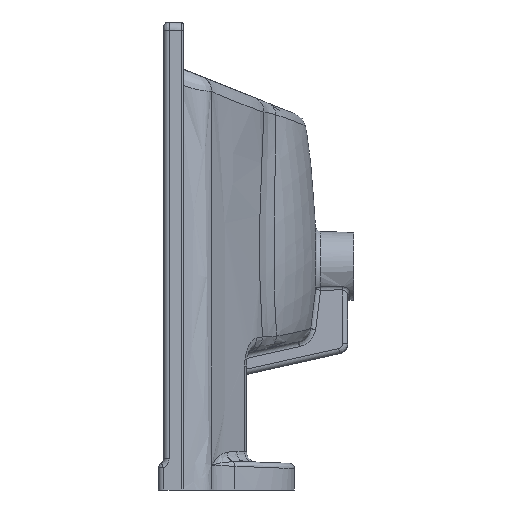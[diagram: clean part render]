
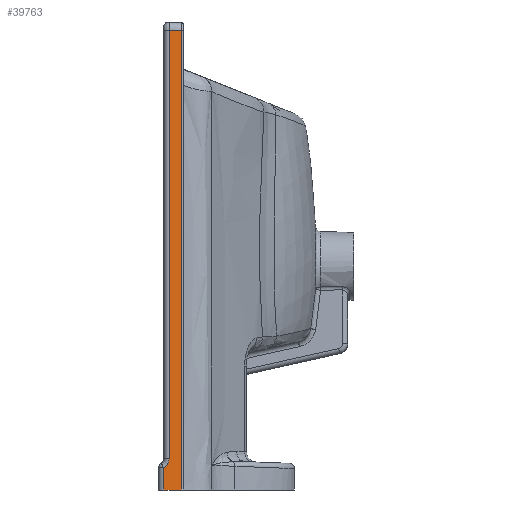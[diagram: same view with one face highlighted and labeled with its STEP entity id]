
A CAD part, left-side view. The second image highlights one B-rep face of the part: STEP entity #39763.
In plain terms, the highlighted planar face has unit normal (-0.999, -0.053, 0).
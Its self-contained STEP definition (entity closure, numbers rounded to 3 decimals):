
#2608 = EDGE_LOOP ( 'NONE', ( #22666, #16986, #8311, #4759, #27794, #25195 ) ) ;
#4546 = VERTEX_POINT ( 'NONE', #13574 ) ;
#4759 = ORIENTED_EDGE ( 'NONE', *, *, #28883, .T. ) ;
#4879 = VERTEX_POINT ( 'NONE', #36739 ) ;
#5804 = VECTOR ( 'NONE', #21939, 1000. ) ;
#6699 = LINE ( 'NONE', #11176, #5804 ) ;
#8311 = ORIENTED_EDGE ( 'NONE', *, *, #8330, .F. ) ;
#8330 = EDGE_CURVE ( 'NONE', #8617, #44454, #20752, .T. ) ;
#8617 = VERTEX_POINT ( 'NONE', #49342 ) ;
#8972 = VECTOR ( 'NONE', #38119, 1000. ) ;
#11176 = CARTESIAN_POINT ( 'NONE',  ( 675.014, -0.263, 0. ) ) ;
#12129 = LINE ( 'NONE', #12383, #8972 ) ;
#12383 = CARTESIAN_POINT ( 'NONE',  ( 675.277, -5.263, -195. ) ) ;
#13574 = CARTESIAN_POINT ( 'NONE',  ( 675.277, -5.263, 216.734 ) ) ;
#16799 = CARTESIAN_POINT ( 'NONE',  ( 675.014, -0.263, -203.66 ) ) ;
#16986 = ORIENTED_EDGE ( 'NONE', *, *, #25756, .T. ) ;
#17793 = CARTESIAN_POINT ( 'NONE',  ( 676., -19., 0. ) ) ;
#19113 = CARTESIAN_POINT ( 'NONE',  ( 675.9, -17.105, 0. ) ) ;
#20752 = LINE ( 'NONE', #38183, #48903 ) ;
#21541 = PLANE ( 'NONE',  #40516 ) ;
#21939 = DIRECTION ( 'NONE',  ( 0., 0., -1. ) ) ;
#22666 = ORIENTED_EDGE ( 'NONE', *, *, #41603, .T. ) ;
#22870 = LINE ( 'NONE', #19113, #45724 ) ;
#23367 = EDGE_CURVE ( 'NONE', #36977, #4546, #30347, .T. ) ;
#25195 = ORIENTED_EDGE ( 'NONE', *, *, #26169, .T. ) ;
#25756 = EDGE_CURVE ( 'NONE', #4879, #44454, #6699, .T. ) ;
#26169 = EDGE_CURVE ( 'NONE', #4546, #26537, #12129, .T. ) ;
#26522 = FACE_OUTER_BOUND ( 'NONE', #2608, .T. ) ;
#26537 = VERTEX_POINT ( 'NONE', #27859 ) ;
#26586 = CARTESIAN_POINT ( 'NONE',  ( 676.595, -30.306, 215.416 ) ) ;
#27794 = ORIENTED_EDGE ( 'NONE', *, *, #23367, .T. ) ;
#27859 = CARTESIAN_POINT ( 'NONE',  ( 675.277, -5.263, -195. ) ) ;
#28883 = EDGE_CURVE ( 'NONE', #8617, #36977, #22870, .T. ) ;
#29809 =( BOUNDED_CURVE ( )  B_SPLINE_CURVE ( 3, ( #47512, #47025, #43017, #16799 ),
 .UNSPECIFIED., .F., .T. ) 
 B_SPLINE_CURVE_WITH_KNOTS ( ( 4, 4 ),
 ( 3.142, 4.189 ),
 .UNSPECIFIED. ) 
 CURVE ( )  GEOMETRIC_REPRESENTATION_ITEM ( )  RATIONAL_B_SPLINE_CURVE ( ( 1., 0.911, 0.911, 1. ) ) 
 REPRESENTATION_ITEM ( '' )  );
#30347 = LINE ( 'NONE', #26586, #44014 ) ;
#36739 = CARTESIAN_POINT ( 'NONE',  ( 675.014, -0.263, -203.66 ) ) ;
#36977 = VERTEX_POINT ( 'NONE', #37631 ) ;
#37026 = DIRECTION ( 'NONE',  ( 0.999, 0.053, 0. ) ) ;
#37631 = CARTESIAN_POINT ( 'NONE',  ( 675.9, -17.105, 216.111 ) ) ;
#38119 = DIRECTION ( 'NONE',  ( 0., 0., -1. ) ) ;
#38183 = CARTESIAN_POINT ( 'NONE',  ( 675.577, -10.97, -225. ) ) ;
#39763 = ADVANCED_FACE ( 'NONE', ( #26522 ), #21541, .F. ) ;
#40516 = AXIS2_PLACEMENT_3D ( 'NONE', #17793, #37026, #41246 ) ;
#41093 = DIRECTION ( 'NONE',  ( 0., 0., 1. ) ) ;
#41246 = DIRECTION ( 'NONE',  ( 0., 0., -1. ) ) ;
#41603 = EDGE_CURVE ( 'NONE', #26537, #4879, #29809, .T. ) ;
#41799 = DIRECTION ( 'NONE',  ( -0.052, 0.997, 0.052 ) ) ;
#43017 = CARTESIAN_POINT ( 'NONE',  ( 675.181, -3.433, -201.83 ) ) ;
#43955 = CARTESIAN_POINT ( 'NONE',  ( 675.014, -0.263, -225. ) ) ;
#44014 = VECTOR ( 'NONE', #41799, 1000. ) ;
#44454 = VERTEX_POINT ( 'NONE', #43955 ) ;
#45724 = VECTOR ( 'NONE', #41093, 1000. ) ;
#45917 = DIRECTION ( 'NONE',  ( -0.053, 0.999, 0. ) ) ;
#47025 = CARTESIAN_POINT ( 'NONE',  ( 675.277, -5.263, -198.66 ) ) ;
#47512 = CARTESIAN_POINT ( 'NONE',  ( 675.277, -5.263, -195. ) ) ;
#48903 = VECTOR ( 'NONE', #45917, 1000. ) ;
#49342 = CARTESIAN_POINT ( 'NONE',  ( 675.9, -17.105, -225. ) ) ;
